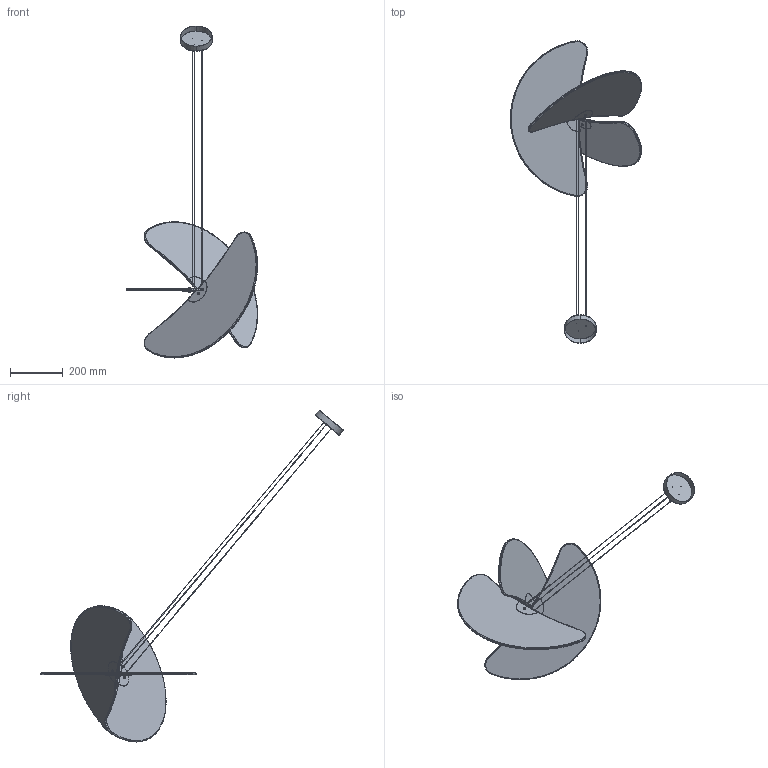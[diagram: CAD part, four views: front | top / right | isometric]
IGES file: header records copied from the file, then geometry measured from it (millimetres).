
Start section: SolidWorks IGES file using analytic representation for surfaces
Global section: file name: F:\燠隴矨\3D\2025-11\Levante Pendant Lamp-D60cm.IGS,15; native system: HSolidWorks 2022; preprocessor: SolidWorks 2022; author: MyPC; date: 251113.141206; units: millimetre
Bounding box: 499.41 x 1151.87 x 1262.97 mm (x, y, z)
Surface area: 897438.5 mm2 (no closed solid volume)
Topology: 0 solids, 0 shells, 139 faces, 2394 edges, 2394 vertices
Faces by surface type: bspline 87, revolution 52
